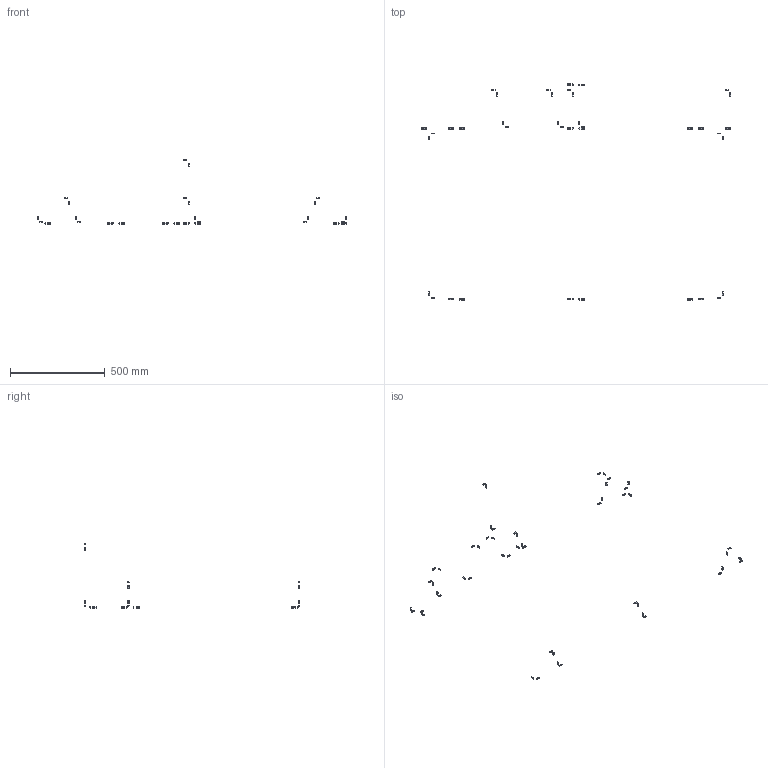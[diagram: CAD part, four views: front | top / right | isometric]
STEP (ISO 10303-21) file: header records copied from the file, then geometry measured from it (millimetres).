
FILE_DESCRIPTION(/* description */ (''),/* implementation_level */ '2;1');
FILE_NAME(/* name */ '1.frame-bottom#1.3#HNTPZ5-5',/* time_stamp */ '2014-12-01T20:10:57+01:00',/* author */ (''),/* organization */ (''),/* preprocessor_version */ 'ST-DEVELOPER v14',/* originating_system */ '',/* authorisation */ '');
FILE_SCHEMA (('AUTOMOTIVE_DESIGN'));
Length unit declared in the file: millimetre
Products named in the file (2): Document; nut tslot, post, M5
Assembly tree (14 placements, depth 2):
  Document
    nut tslot, post, M5  x14
Bounding box: 1630.2 x 1138.3 x 339.35 mm (x, y, z)
Volume: 17011.4 mm3; surface area: 22654.8 mm2
Topology: 54 solids, 54 shells, 702 faces, 1944 edges, 1296 vertices
Faces by surface type: plane 594, bspline 108
Entity records: 39185 total; most frequent: CARTESIAN_POINT 18713, B_SPLINE_CURVE_WITH_KNOTS 4100, ORIENTED_EDGE 2952, PCURVE 2952, DEFINITIONAL_REPRESENTATION 2952, SURFACE_CURVE 1476, EDGE_CURVE 1476, VERTEX_POINT 984
